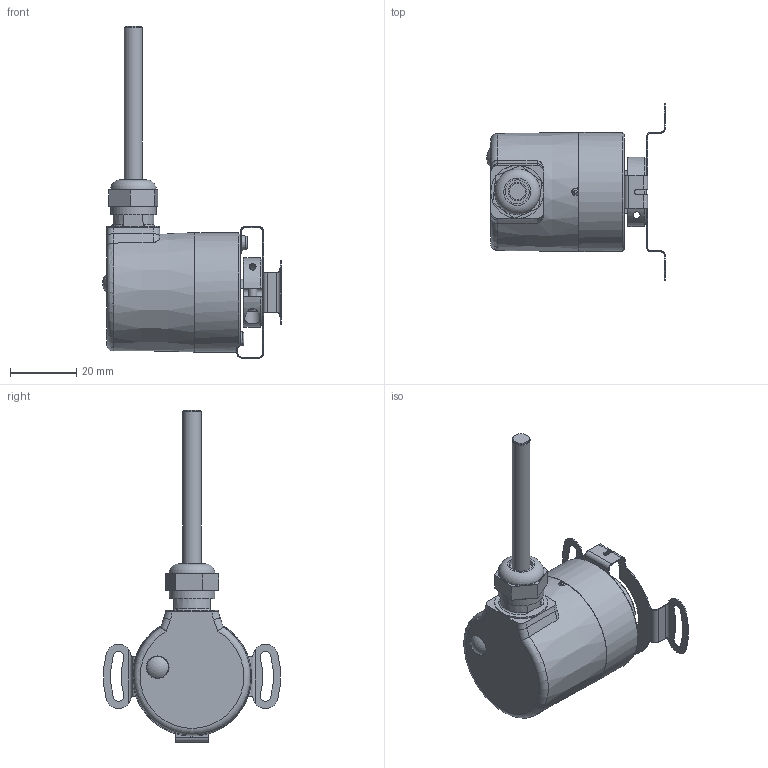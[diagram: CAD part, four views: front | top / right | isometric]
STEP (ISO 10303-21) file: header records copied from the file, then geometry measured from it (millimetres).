
FILE_DESCRIPTION (( 'STEP AP214' ), '1' );
FILE_NAME ('8.3671.543B.XXXX.STEP', '2016-09-26T12:45:22', ( 'HeirlerN' ), ( 'Microsoft' ), 'SwSTEP 2.0', 'SolidWorks 2013', '' );
FILE_SCHEMA (( 'AUTOMOTIVE_DESIGN' ));
Length unit declared in the file: millimetre
Products named in the file (1): 8.3671.543B.XXXX
Bounding box: 53.95 x 53.4 x 100.3 mm (x, y, z)
Surface area: 12137.3 mm2 (no closed solid volume)
Topology: 0 solids, 13 shells, 212 faces, 636 edges, 434 vertices
Faces by surface type: cylinder 94, plane 92, torus 13, cone 12, sphere 1
Full cylindrical faces by diameter (mm): 2.5 x1, 2.8 x1, 4.7 x1, 5 x1, 5.5 x1, 6.53 x1, 7.2 x1, 8 x1, 13.8 x2, 18 x1, 36 x1
Entity records: 9764 total; most frequent: CARTESIAN_POINT 1816, DIRECTION 1176, ORIENTED_EDGE 1103, EDGE_CURVE 601, AXIS2_PLACEMENT_3D 438, VERTEX_POINT 422, VECTOR 300, LINE 300
